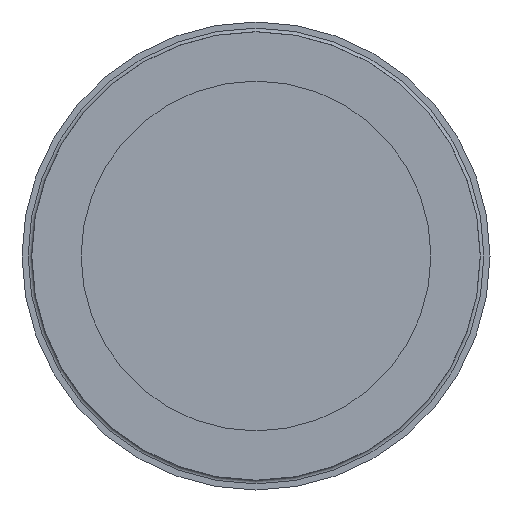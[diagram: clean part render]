
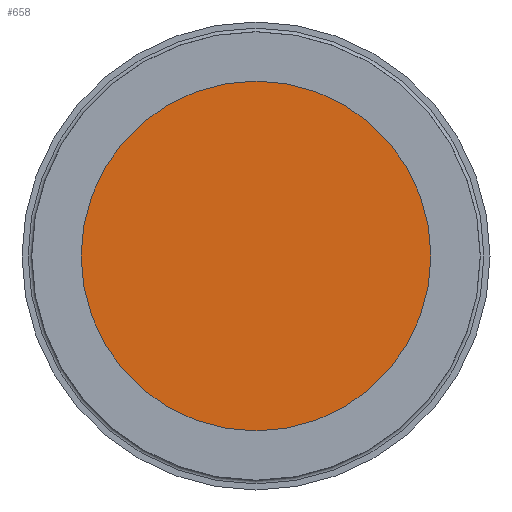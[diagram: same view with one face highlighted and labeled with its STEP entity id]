
A CAD part, left-side view. The second image highlights one B-rep face of the part: STEP entity #658.
In plain terms, the highlighted planar face has unit normal (-1, 0, 0).
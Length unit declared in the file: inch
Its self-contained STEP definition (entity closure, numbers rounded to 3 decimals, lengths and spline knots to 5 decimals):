
#658 = ADVANCED_FACE( '', ( #1363 ), #1364, .F. );
#1363 = FACE_OUTER_BOUND( '', #3329, .T. );
#1364 = PLANE( '', #3330 );
#3329 = EDGE_LOOP( '', ( #5042 ) );
#3330 = AXIS2_PLACEMENT_3D( '', #5043, #5044, #5045 );
#5042 = ORIENTED_EDGE( '', *, *, #5366, .T. );
#5043 = CARTESIAN_POINT( '', ( -0.04605, 0., 0. ) );
#5044 = DIRECTION( '', ( 1., 0., 0. ) );
#5045 = DIRECTION( '', ( 0., 0., -1. ) );
#5366 = EDGE_CURVE( '', #6299, #6299, #6300, .T. );
#6299 = VERTEX_POINT( '', #7995 );
#6300 = CIRCLE( '', #7996, 1.495 );
#7995 = CARTESIAN_POINT( '', ( -0.04605, 0., 1.495 ) );
#7996 = AXIS2_PLACEMENT_3D( '', #9543, #9544, #9545 );
#9543 = CARTESIAN_POINT( '', ( -0.04605, 0., 0. ) );
#9544 = DIRECTION( '', ( -1., 0., 0. ) );
#9545 = DIRECTION( '', ( 0., 0., 1. ) );
